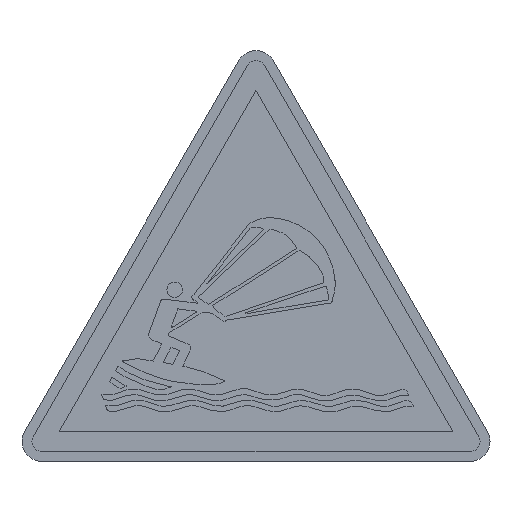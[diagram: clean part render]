
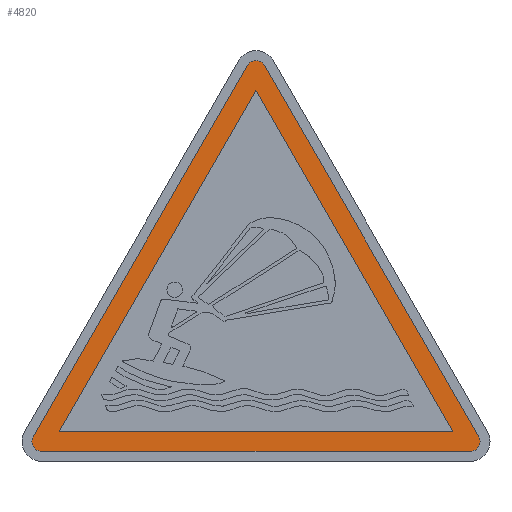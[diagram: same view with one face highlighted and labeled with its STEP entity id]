
A CAD part, top view. The second image highlights one B-rep face of the part: STEP entity #4820.
In plain terms, the highlighted planar face has unit normal (0, 0, 1).
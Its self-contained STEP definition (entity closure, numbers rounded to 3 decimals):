
#20 = CARTESIAN_POINT ( 'NONE',  ( -22.536, 2., 0.22 ) ) ;
#29 = VERTEX_POINT ( 'NONE', #1676 ) ;
#153 = VECTOR ( 'NONE', #1608, 1000. ) ;
#251 = CARTESIAN_POINT ( 'NONE',  ( 19.804, 3., 0.22 ) ) ;
#363 = EDGE_CURVE ( 'NONE', #6720, #9630, #14149, .T. ) ;
#741 = CARTESIAN_POINT ( 'NONE',  ( -21.536, 1., 0.22 ) ) ;
#771 = AXIS2_PLACEMENT_3D ( 'NONE', #16266, #15022, #9730 ) ;
#1213 = ORIENTED_EDGE ( 'NONE', *, *, #6547, .T. ) ;
#1296 = ORIENTED_EDGE ( 'NONE', *, *, #363, .T. ) ;
#1608 = DIRECTION ( 'NONE',  ( -0.5, 0.866, 0. ) ) ;
#1676 = CARTESIAN_POINT ( 'NONE',  ( -22.402, 2.5, 0.22 ) ) ;
#2062 = CIRCLE ( 'NONE', #13839, 1. ) ;
#2180 = VERTEX_POINT ( 'NONE', #251 ) ;
#2678 = CARTESIAN_POINT ( 'NONE',  ( -21.536, 1., 0.22 ) ) ;
#2862 = EDGE_CURVE ( 'NONE', #29, #5861, #12426, .T. ) ;
#2894 = CARTESIAN_POINT ( 'NONE',  ( -19.804, 3., 0.22 ) ) ;
#2937 = VERTEX_POINT ( 'NONE', #15317 ) ;
#3117 = CARTESIAN_POINT ( 'NONE',  ( -19.804, 3., 0.22 ) ) ;
#3222 = VERTEX_POINT ( 'NONE', #2894 ) ;
#3369 = EDGE_CURVE ( 'NONE', #9822, #3222, #4303, .T. ) ;
#3555 = CARTESIAN_POINT ( 'NONE',  ( 0., 39.301, 0.22 ) ) ;
#3884 = CARTESIAN_POINT ( 'NONE',  ( 21.536, 1., 0.22 ) ) ;
#4041 = DIRECTION ( 'NONE',  ( 1., 0., 0. ) ) ;
#4303 = LINE ( 'NONE', #13613, #12988 ) ;
#4497 = CIRCLE ( 'NONE', #771, 1. ) ;
#4521 = DIRECTION ( 'NONE',  ( 0., 0., 1. ) ) ;
#4524 = ORIENTED_EDGE ( 'NONE', *, *, #12133, .T. ) ;
#4820 = ADVANCED_FACE ( 'NONE', ( #15222, #7606 ), #12698, .T. ) ;
#4943 = AXIS2_PLACEMENT_3D ( 'NONE', #8598, #4521, #13735 ) ;
#5083 = DIRECTION ( 'NONE',  ( 1., 0., 0. ) ) ;
#5182 = ORIENTED_EDGE ( 'NONE', *, *, #3369, .F. ) ;
#5449 = CARTESIAN_POINT ( 'NONE',  ( 19.804, 3., 0.22 ) ) ;
#5861 = VERTEX_POINT ( 'NONE', #20 ) ;
#6135 = CARTESIAN_POINT ( 'NONE',  ( -21.536, 2., 0.22 ) ) ;
#6374 = ORIENTED_EDGE ( 'NONE', *, *, #12584, .F. ) ;
#6547 = EDGE_CURVE ( 'NONE', #9630, #9674, #4497, .T. ) ;
#6641 = CARTESIAN_POINT ( 'NONE',  ( 0.866, 39.801, 0.22 ) ) ;
#6720 = VERTEX_POINT ( 'NONE', #741 ) ;
#6756 = VECTOR ( 'NONE', #8229, 1000. ) ;
#7606 = FACE_BOUND ( 'NONE', #7905, .T. ) ;
#7905 = EDGE_LOOP ( 'NONE', ( #16354, #5182, #6374 ) ) ;
#7976 = EDGE_CURVE ( 'NONE', #9674, #13409, #8337, .T. ) ;
#8229 = DIRECTION ( 'NONE',  ( 1., 0., 0. ) ) ;
#8337 = LINE ( 'NONE', #14715, #15235 ) ;
#8598 = CARTESIAN_POINT ( 'NONE',  ( -21.536, 2., 0.22 ) ) ;
#8622 = DIRECTION ( 'NONE',  ( 1., 0., 0. ) ) ;
#9474 = LINE ( 'NONE', #3117, #6756 ) ;
#9630 = VERTEX_POINT ( 'NONE', #3884 ) ;
#9674 = VERTEX_POINT ( 'NONE', #14046 ) ;
#9730 = DIRECTION ( 'NONE',  ( 1., 0., 0. ) ) ;
#9822 = VERTEX_POINT ( 'NONE', #10389 ) ;
#9893 = ORIENTED_EDGE ( 'NONE', *, *, #13619, .T. ) ;
#10389 = CARTESIAN_POINT ( 'NONE',  ( 0., 37.301, 0.22 ) ) ;
#10573 = ORIENTED_EDGE ( 'NONE', *, *, #7976, .T. ) ;
#10610 = LINE ( 'NONE', #5449, #153 ) ;
#10650 = EDGE_LOOP ( 'NONE', ( #14982, #4524, #12146, #9893, #1296, #1213, #10573 ) ) ;
#11141 = AXIS2_PLACEMENT_3D ( 'NONE', #3555, #13882, #5083 ) ;
#11644 = AXIS2_PLACEMENT_3D ( 'NONE', #12007, #15545, #4041 ) ;
#12007 = CARTESIAN_POINT ( 'NONE',  ( 0., 39.301, 0.22 ) ) ;
#12133 = EDGE_CURVE ( 'NONE', #2937, #29, #16415, .T. ) ;
#12146 = ORIENTED_EDGE ( 'NONE', *, *, #2862, .T. ) ;
#12244 = DIRECTION ( 'NONE',  ( 0., 0., 1. ) ) ;
#12267 = DIRECTION ( 'NONE',  ( -0.5, -0.866, 0. ) ) ;
#12426 = CIRCLE ( 'NONE', #4943, 1. ) ;
#12584 = EDGE_CURVE ( 'NONE', #2180, #9822, #10610, .T. ) ;
#12698 = PLANE ( 'NONE',  #11644 ) ;
#12791 = CIRCLE ( 'NONE', #11141, 1. ) ;
#12988 = VECTOR ( 'NONE', #12267, 1000. ) ;
#13409 = VERTEX_POINT ( 'NONE', #6641 ) ;
#13613 = CARTESIAN_POINT ( 'NONE',  ( 0., 37.301, 0.22 ) ) ;
#13619 = EDGE_CURVE ( 'NONE', #5861, #6720, #2062, .T. ) ;
#13625 = VECTOR ( 'NONE', #15494, 1000. ) ;
#13640 = DIRECTION ( 'NONE',  ( -0.5, 0.866, 0. ) ) ;
#13735 = DIRECTION ( 'NONE',  ( 1., 0., 0. ) ) ;
#13827 = DIRECTION ( 'NONE',  ( -0.5, -0.866, 0. ) ) ;
#13839 = AXIS2_PLACEMENT_3D ( 'NONE', #6135, #12244, #8622 ) ;
#13882 = DIRECTION ( 'NONE',  ( 0., 0., 1. ) ) ;
#14046 = CARTESIAN_POINT ( 'NONE',  ( 22.402, 2.5, 0.22 ) ) ;
#14149 = LINE ( 'NONE', #2678, #13625 ) ;
#14335 = EDGE_CURVE ( 'NONE', #13409, #2937, #12791, .T. ) ;
#14715 = CARTESIAN_POINT ( 'NONE',  ( 22.402, 2.5, 0.22 ) ) ;
#14982 = ORIENTED_EDGE ( 'NONE', *, *, #14335, .T. ) ;
#15022 = DIRECTION ( 'NONE',  ( 0., 0., 1. ) ) ;
#15222 = FACE_OUTER_BOUND ( 'NONE', #10650, .T. ) ;
#15235 = VECTOR ( 'NONE', #13640, 1000. ) ;
#15317 = CARTESIAN_POINT ( 'NONE',  ( -0.866, 39.801, 0.22 ) ) ;
#15377 = EDGE_CURVE ( 'NONE', #3222, #2180, #9474, .T. ) ;
#15494 = DIRECTION ( 'NONE',  ( 1., 0., 0. ) ) ;
#15545 = DIRECTION ( 'NONE',  ( 0., 0., 1. ) ) ;
#15902 = VECTOR ( 'NONE', #13827, 1000. ) ;
#16266 = CARTESIAN_POINT ( 'NONE',  ( 21.536, 2., 0.22 ) ) ;
#16354 = ORIENTED_EDGE ( 'NONE', *, *, #15377, .F. ) ;
#16415 = LINE ( 'NONE', #16501, #15902 ) ;
#16501 = CARTESIAN_POINT ( 'NONE',  ( -0.866, 39.801, 0.22 ) ) ;
